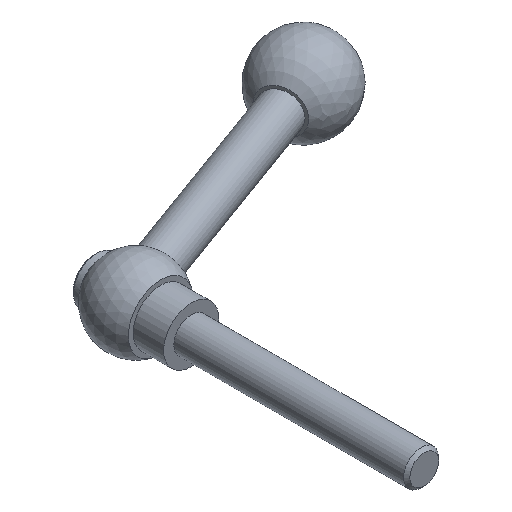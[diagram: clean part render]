
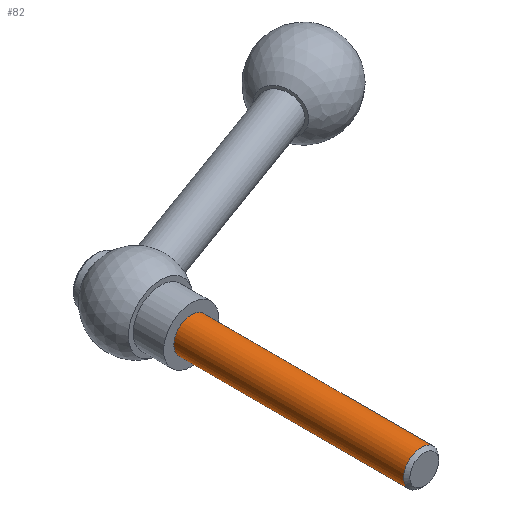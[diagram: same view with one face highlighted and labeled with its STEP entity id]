
A CAD part, isometric view. The second image highlights one B-rep face of the part: STEP entity #82.
In plain terms, the highlighted cylindrical face has radius 6 mm (diameter 12 mm), a full revolution.
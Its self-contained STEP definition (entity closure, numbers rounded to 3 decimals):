
#82 = ADVANCED_FACE( '', ( #108, #109 ), #110, .T. );
#108 = FACE_OUTER_BOUND( '', #145, .T. );
#109 = FACE_OUTER_BOUND( '', #146, .T. );
#110 = CYLINDRICAL_SURFACE( '', #147, 6. );
#145 = EDGE_LOOP( '', ( #199 ) );
#146 = EDGE_LOOP( '', ( #200 ) );
#147 = AXIS2_PLACEMENT_3D( '', #201, #202, #203 );
#199 = ORIENTED_EDGE( '', *, *, #237, .F. );
#200 = ORIENTED_EDGE( '', *, *, #238, .T. );
#201 = CARTESIAN_POINT( '', ( 0., -80., 0. ) );
#202 = DIRECTION( '', ( 0., 1., 0. ) );
#203 = DIRECTION( '', ( 1., 0., 0. ) );
#237 = EDGE_CURVE( '', #258, #258, #259, .T. );
#238 = EDGE_CURVE( '', #260, #260, #261, .T. );
#258 = VERTEX_POINT( '', #367 );
#259 = CIRCLE( '', #368, 6. );
#260 = VERTEX_POINT( '', #369 );
#261 = CIRCLE( '', #370, 6. );
#367 = CARTESIAN_POINT( '', ( 6., -78.927, 0. ) );
#368 = AXIS2_PLACEMENT_3D( '', #395, #396, #397 );
#369 = CARTESIAN_POINT( '', ( 6., 0., 0. ) );
#370 = AXIS2_PLACEMENT_3D( '', #398, #399, #400 );
#395 = CARTESIAN_POINT( '', ( 0., -78.927, 0. ) );
#396 = DIRECTION( '', ( 0., -1., 0. ) );
#397 = DIRECTION( '', ( 1., 0., 0. ) );
#398 = CARTESIAN_POINT( '', ( 0., 0., 0. ) );
#399 = DIRECTION( '', ( 0., -1., 0. ) );
#400 = DIRECTION( '', ( 1., 0., 0. ) );
